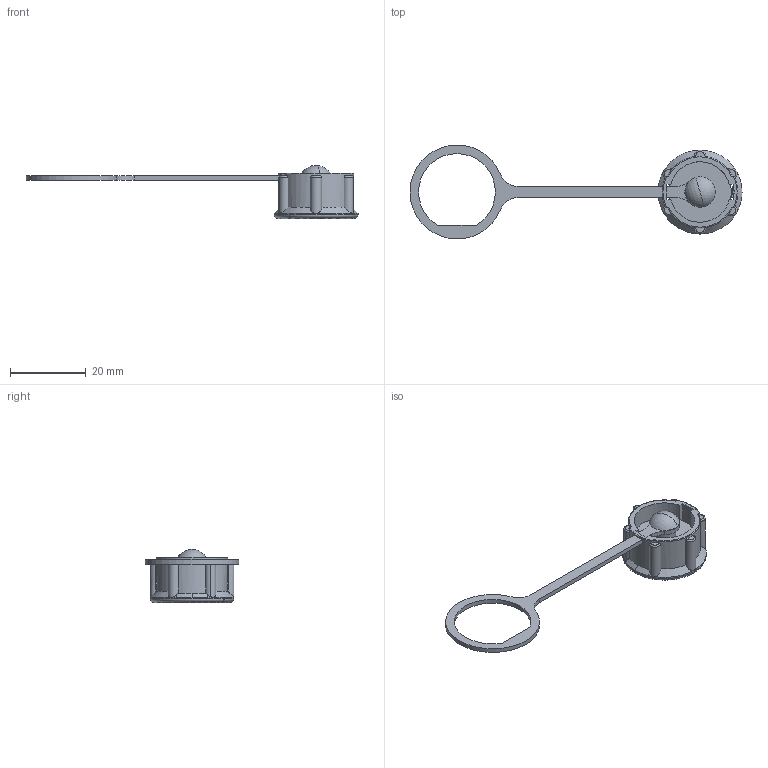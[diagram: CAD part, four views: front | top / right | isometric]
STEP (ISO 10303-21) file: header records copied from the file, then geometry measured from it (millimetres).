
FILE_DESCRIPTION (( 'STEP AP203' ), '1' );
FILE_NAME ('GT1C532122.STEP', '2019-06-05T03:46:42', ( '' ), ( '' ), 'SwSTEP 2.0', 'SolidWorks 2018', '' );
FILE_SCHEMA (( 'CONFIG_CONTROL_DESIGN' ));
Length unit declared in the file: millimetre
Products named in the file (1): GT1C532122
Bounding box: 87.83 x 24.85 x 14.05 mm (x, y, z)
Volume: 2412.5 mm3; surface area: 3646.9 mm2
Topology: 3 solids, 4 shells, 166 faces, 464 edges, 305 vertices
Faces by surface type: cylinder 68, plane 45, bspline 28, cone 17, torus 6, sphere 2
Entity records: 7549 total; most frequent: CARTESIAN_POINT 3654, ORIENTED_EDGE 928, DIRECTION 606, EDGE_CURVE 464, VERTEX_POINT 305, AXIS2_PLACEMENT_3D 229, B_SPLINE_CURVE_WITH_KNOTS 212, EDGE_LOOP 183
